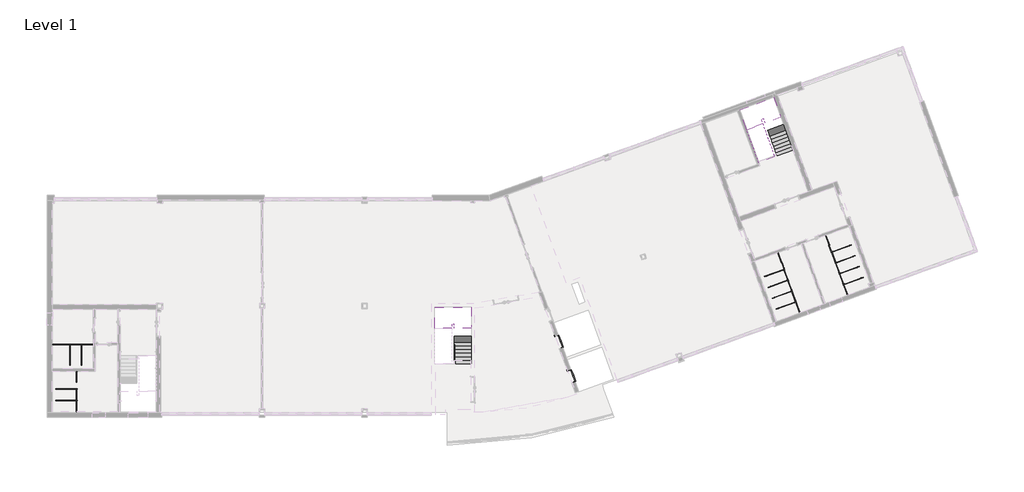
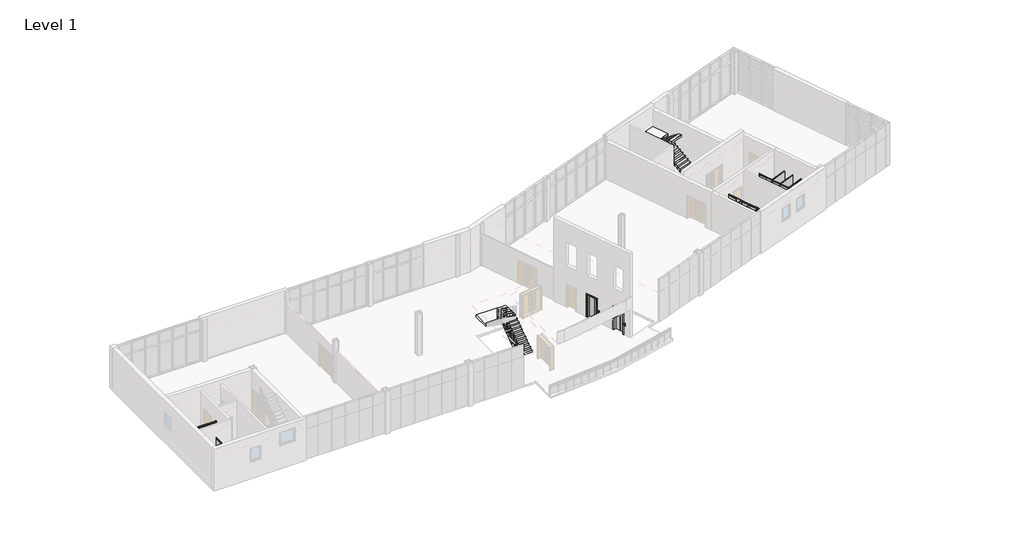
# One storey, part 12 of 12: 19 flow terminals, 3 stair flights, 2 proxies, 2 slabs.
"""IFC4 building model written with IfcOpenShell, lengths in millimetres."""

from ifc_helpers import new_model, si_unit, frame, origin, place, context, project, spatial, polyline, outline, extrude, faceted_brep, transform, mapped, element, save
from components import specialty_equipment_lift_assembly_13_person_wide_car_fb916a52, flow_terminal_2100mm_height_12b2e6eb, flow_terminal_2100mm_height_2c32aa6e, flow_terminal_2100mm_height_1f2eed72, flow_terminal_2100mm_height_0595ce71, flow_terminal_2100mm_height_6680c838, plumbing_fixtures_cubicle_corner_end_2100mm_height_8010d271, plumbing_fixtures_cubicle_corner_end_2100mm_height_71efdfa1

model = new_model("IFC4")

# Units and contexts
model_context = context("Model", 3, world=origin())
ifc_project = project(units=[si_unit("LENGTHUNIT", "METRE", prefix="MILLI")], contexts=[model_context])

# Site, building, storey
site = spatial("IfcSite", under=ifc_project)
building = spatial("IfcBuilding", under=site)
storey = spatial("IfcBuildingStorey", under=building, Name="Level 1", Elevation=3900.0)

# Proxies
placement = place(None, origin())
specialty_equipment_lift_assembly_13_person_wide_car_shape = specialty_equipment_lift_assembly_13_person_wide_car_fb916a52(model_context)
element("IfcBuildingElementProxy", 1, Name="Specialty_Equipment_Lift_Assembly : 13_Person-Wide_Car", ObjectType="Specialty_Equipment_Lift_Assembly : 13_Person-Wide_Car", at=placement, inside=storey, context=model_context, shape_type="MappedRepresentation", body=[
    mapped(specialty_equipment_lift_assembly_13_person_wide_car_shape, transform((36402.6729076, 5528.4769866, 3900.0), x_axis=(-0.34202014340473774, 0.9396926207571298, 0.0), y_axis=(-0.9396926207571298, -0.34202014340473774, 0.0), z_axis=(0.0, 0.0, 1.0))),
])
element("IfcBuildingElementProxy", 2, Name="Specialty_Equipment_Lift_Assembly : 13_Person-Wide_Car", ObjectType="Specialty_Equipment_Lift_Assembly : 13_Person-Wide_Car", at=placement, inside=storey, context=model_context, shape_type="MappedRepresentation", body=[
    mapped(specialty_equipment_lift_assembly_13_person_wide_car_shape, transform((37291.5468029, 3086.3160311, 3900.0), x_axis=(-0.34202014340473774, 0.9396926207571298, 0.0), y_axis=(-0.9396926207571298, -0.34202014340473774, 0.0), z_axis=(0.0, 0.0, 1.0))),
])

# Flow terminals
flow_terminal_2100mm_height_shape = flow_terminal_2100mm_height_12b2e6eb(model_context)
element("IfcFlowTerminal", 3, ObjectType="Plumbing_Fixtures_Toilet_Cubicle_End_Adjacent_Wall : 2100mm_Height", at=placement, inside=storey, context=model_context, shape_type="MappedRepresentation", body=[
    mapped(flow_terminal_2100mm_height_shape, transform((50541.393351, 10685.9180507, 3900.0), x_axis=(-0.3420201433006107, 0.9396926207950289, 0.0), y_axis=(-0.9396926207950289, -0.3420201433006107, 0.0), z_axis=(0.0, 0.0, 1.0))),
])
element("IfcFlowTerminal", 4, ObjectType="Plumbing_Fixtures_Toilet_Cubicle_End_Adjacent_Wall : 2100mm_Height", at=placement, inside=storey, context=model_context, shape_type="MappedRepresentation", body=[
    mapped(flow_terminal_2100mm_height_shape, transform((383.0, 2814.5689301, 3900.0), x_axis=(2.5442148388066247e-11, 1.0, 0.0), y_axis=(-1.0, 2.5442148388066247e-11, 0.0), z_axis=(0.0, 0.0, 1.0))),
])
element("IfcFlowTerminal", 5, ObjectType="Plumbing_Fixtures_Toilet_Cubicle_End_Adjacent_Wall : 2100mm_Height", at=placement, inside=storey, context=model_context, shape_type="MappedRepresentation", body=[
    mapped(flow_terminal_2100mm_height_shape, transform((830.9310712, 3326.5000005, 3900.0), x_axis=(-1.0, 2.5443536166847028e-11, 0.0), y_axis=(-2.5443536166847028e-11, -1.0, 0.0), z_axis=(0.0, 0.0, 1.0))),
])
flow_terminal_2100mm_height_2_shape = flow_terminal_2100mm_height_2c32aa6e(model_context)
element("IfcFlowTerminal", 6, ObjectType="Plumbing_Fixtures_Toilet_Cubicle_End_Adjacent_Wall : 2100mm_Height", at=placement, inside=storey, context=model_context, shape_type="MappedRepresentation", body=[
    mapped(flow_terminal_2100mm_height_2_shape, transform((57283.6879051, 13139.9125789, 3900.0), x_axis=(-0.3420201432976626, 0.9396926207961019, 0.0), y_axis=(-0.9396926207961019, -0.3420201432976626, 0.0), z_axis=(0.0, 0.0, 1.0))),
])
flow_terminal_2100mm_height_3_shape = flow_terminal_2100mm_height_1f2eed72(model_context)
element("IfcFlowTerminal", 7, ObjectType="Plumbing_Fixtures_Toile_Cubicle_Extension_Panel : 2100mm_Height", at=placement, inside=storey, context=model_context, shape_type="MappedRepresentation", body=[
    mapped(flow_terminal_2100mm_height_3_shape, transform((50976.9218015, 9489.3134675, 3900.0), x_axis=(-0.34202014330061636, 0.9396926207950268, 0.0), y_axis=(-0.9396926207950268, -0.34202014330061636, 0.0), z_axis=(0.0, 0.0, 1.0))),
])
flow_terminal_2100mm_height_4_shape = flow_terminal_2100mm_height_0595ce71(model_context)
element("IfcFlowTerminal", 8, ObjectType="Plumbing_Fixtures_Toile_Cubicle_Extension_Panel : 2100mm_Height", at=placement, inside=storey, context=model_context, shape_type="MappedRepresentation", body=[
    mapped(flow_terminal_2100mm_height_4_shape, transform((57719.2163556, 11943.3079956, 3900.0), x_axis=(-0.3420201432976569, 0.9396926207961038, 0.0), y_axis=(-0.9396926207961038, -0.3420201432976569, 0.0), z_axis=(0.0, 0.0, 1.0))),
])
flow_terminal_2100mm_height_5_shape = flow_terminal_2100mm_height_6680c838(model_context)
element("IfcFlowTerminal", 9, ObjectType="Plumbing_Fixtures_Toile_Cubicle_Extension_Panel : 2100mm_Height", at=placement, inside=storey, context=model_context, shape_type="MappedRepresentation", body=[
    mapped(flow_terminal_2100mm_height_5_shape, transform((2080.4310713, 3326.5000005, 3900.0), x_axis=(-1.0, 0.0, 0.0), y_axis=(0.0, -1.0, 0.0), z_axis=(0.0, 0.0, 1.0))),
])
plumbing_fixtures_cubicle_corner_end_2100mm_height_shape = plumbing_fixtures_cubicle_corner_end_2100mm_height_8010d271(model_context)
element("IfcFlowTerminal", 10, ObjectType="Plumbing_Fixtures_Cubicle_Corner_End : 2100mm_Height", at=placement, inside=storey, context=model_context, shape_type="MappedRepresentation", body=[
    mapped(plumbing_fixtures_cubicle_corner_end_2100mm_height_shape, transform((58572.2617435, 9599.5850544, 3900.0), x_axis=(0.3420201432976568, -0.9396926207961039, 0.0), y_axis=(0.9396926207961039, 0.3420201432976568, 0.0), z_axis=(0.0, 0.0, 1.0))),
])
element("IfcFlowTerminal", 11, ObjectType="Plumbing_Fixtures_Cubicle_Corner_End : 2100mm_Height", at=placement, inside=storey, context=model_context, shape_type="MappedRepresentation", body=[
    mapped(plumbing_fixtures_cubicle_corner_end_2100mm_height_shape, transform((58291.805226, 10370.1330034, 3900.0), x_axis=(0.3420201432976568, -0.9396926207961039, 0.0), y_axis=(0.9396926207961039, 0.3420201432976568, 0.0), z_axis=(0.0, 0.0, 1.0))),
])
element("IfcFlowTerminal", 12, ObjectType="Plumbing_Fixtures_Cubicle_Corner_End : 2100mm_Height", at=placement, inside=storey, context=model_context, shape_type="MappedRepresentation", body=[
    mapped(plumbing_fixtures_cubicle_corner_end_2100mm_height_shape, transform((58011.3487085, 11140.6809525, 3900.0), x_axis=(0.3420201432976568, -0.9396926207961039, 0.0), y_axis=(0.9396926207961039, 0.3420201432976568, 0.0), z_axis=(0.0, 0.0, 1.0))),
])
element("IfcFlowTerminal", 13, ObjectType="Plumbing_Fixtures_Cubicle_Corner_End : 2100mm_Height", at=placement, inside=storey, context=model_context, shape_type="MappedRepresentation", body=[
    mapped(plumbing_fixtures_cubicle_corner_end_2100mm_height_shape, transform((57730.892191, 11911.2289015, 3900.0), x_axis=(0.3420201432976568, -0.9396926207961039, 0.0), y_axis=(0.9396926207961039, 0.3420201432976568, 0.0), z_axis=(0.0, 0.0, 1.0))),
])
plumbing_fixtures_cubicle_corner_end_2100mm_height_2_shape = plumbing_fixtures_cubicle_corner_end_2100mm_height_71efdfa1(model_context)
element("IfcFlowTerminal", 14, ObjectType="Plumbing_Fixtures_Cubicle_Corner_End : 2100mm_Height", at=placement, inside=storey, context=model_context, shape_type="MappedRepresentation", body=[
    mapped(plumbing_fixtures_cubicle_corner_end_2100mm_height_2_shape, transform((51829.9671894, 7145.5905262, 3900.0), x_axis=(0.3420201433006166, -0.9396926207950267, 0.0), y_axis=(0.9396926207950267, 0.3420201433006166, 0.0), z_axis=(0.0, 0.0, 1.0))),
])
element("IfcFlowTerminal", 15, ObjectType="Plumbing_Fixtures_Cubicle_Corner_End : 2100mm_Height", at=placement, inside=storey, context=model_context, shape_type="MappedRepresentation", body=[
    mapped(plumbing_fixtures_cubicle_corner_end_2100mm_height_2_shape, transform((51549.5106719, 7916.1384753, 3900.0), x_axis=(0.3420201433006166, -0.9396926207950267, 0.0), y_axis=(0.9396926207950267, 0.3420201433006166, 0.0), z_axis=(0.0, 0.0, 1.0))),
])
element("IfcFlowTerminal", 16, ObjectType="Plumbing_Fixtures_Cubicle_Corner_End : 2100mm_Height", at=placement, inside=storey, context=model_context, shape_type="MappedRepresentation", body=[
    mapped(plumbing_fixtures_cubicle_corner_end_2100mm_height_2_shape, transform((51269.0541544, 8686.6864243, 3900.0), x_axis=(0.3420201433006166, -0.9396926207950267, 0.0), y_axis=(0.9396926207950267, 0.3420201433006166, 0.0), z_axis=(0.0, 0.0, 1.0))),
])
element("IfcFlowTerminal", 17, ObjectType="Plumbing_Fixtures_Cubicle_Corner_End : 2100mm_Height", at=placement, inside=storey, context=model_context, shape_type="MappedRepresentation", body=[
    mapped(plumbing_fixtures_cubicle_corner_end_2100mm_height_2_shape, transform((50988.5976369, 9457.2343734, 3900.0), x_axis=(0.3420201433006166, -0.9396926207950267, 0.0), y_axis=(0.9396926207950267, 0.3420201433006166, 0.0), z_axis=(0.0, 0.0, 1.0))),
])
element("IfcFlowTerminal", 18, ObjectType="Plumbing_Fixtures_Cubicle_Corner_End : 2100mm_Height", at=placement, inside=storey, context=model_context, shape_type="MappedRepresentation", body=[
    mapped(plumbing_fixtures_cubicle_corner_end_2100mm_height_2_shape, transform((383.0, 710.9310711, 3900.0), x_axis=(-2.5442148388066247e-11, -1.0, 0.0), y_axis=(1.0, -2.5442148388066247e-11, 0.0), z_axis=(0.0, 0.0, 1.0))),
])
element("IfcFlowTerminal", 19, ObjectType="Plumbing_Fixtures_Cubicle_Corner_End : 2100mm_Height", at=placement, inside=storey, context=model_context, shape_type="MappedRepresentation", body=[
    mapped(plumbing_fixtures_cubicle_corner_end_2100mm_height_2_shape, transform((383.0, 1530.9310711, 3900.0), x_axis=(-2.5442148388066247e-11, -1.0, 0.0), y_axis=(1.0, -2.5442148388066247e-11, 0.0), z_axis=(0.0, 0.0, 1.0))),
])
element("IfcFlowTerminal", 20, ObjectType="Plumbing_Fixtures_Cubicle_Corner_End : 2100mm_Height", at=placement, inside=storey, context=model_context, shape_type="MappedRepresentation", body=[
    mapped(plumbing_fixtures_cubicle_corner_end_2100mm_height_2_shape, transform((2934.5689301, 3326.5000005, 3900.0), x_axis=(1.0, -2.5443536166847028e-11, 0.0), y_axis=(2.5443536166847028e-11, 1.0, 0.0), z_axis=(0.0, 0.0, 1.0))),
])
element("IfcFlowTerminal", 21, ObjectType="Plumbing_Fixtures_Cubicle_Corner_End : 2100mm_Height", at=placement, inside=storey, context=model_context, shape_type="MappedRepresentation", body=[
    mapped(plumbing_fixtures_cubicle_corner_end_2100mm_height_2_shape, transform((2114.5689301, 3326.5000005, 3900.0), x_axis=(1.0, -2.5443536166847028e-11, 0.0), y_axis=(2.5443536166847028e-11, 1.0, 0.0), z_axis=(0.0, 0.0, 1.0))),
])

# Slabs
element("IfcSlab", 22, ObjectType="8\" Thickness", at=placement, inside=storey, context=model_context, shape_type="SolidModel", body=[
    faceted_brep([(29052.2000029, 6263.2000006, 5849.0), (30252.200003, 6263.2000006, 5849.0), (30252.200003, 6490.4719159, 5849.0), (30252.200003, 7763.2000004, 5849.0), (27662.2000031, 7763.2000004, 5849.0), (27662.2000031, 6285.9280852, 5849.0), (27662.2000031, 6263.2000006, 5849.0), (28862.2000029, 6263.2000006, 5849.0), (28862.2000029, 6285.9280852, 5849.0), (28862.2000029, 6563.2000006, 5849.0), (29052.2000029, 6563.2000006, 5849.0), (29052.2000029, 6490.4719159, 5849.0), (29052.2000029, 6263.2000006, 5487.8435509), (29052.2000029, 6263.2000006, 5671.7272727), (29052.2000029, 6563.2000006, 5649.0), (29052.2000029, 6490.4719159, 5649.0), (30252.200003, 6263.2000006, 5671.7272727), (30252.200003, 6263.2000006, 5487.8435509), (30252.200003, 6490.4719159, 5649.0), (30252.200003, 7763.2000004, 5649.0), (28862.2000029, 6263.2000006, 5665.1162782), (28862.2000029, 6285.9280852, 5649.0), (28862.2000029, 6563.2000006, 5649.0), (27662.2000031, 6285.9280852, 5649.0), (27662.2000031, 7763.2000004, 5649.0), (27662.2000031, 6263.2000006, 5665.1162782)], [[[0, 1, 2, 3, 4, 5, 6, 7, 8, 9, 10, 11]], [[12, 13, 0, 11, 10, 14, 15]], [[1, 16, 17, 18, 19, 3, 2]], [[7, 20, 21, 22, 9, 8]], [[18, 15, 14, 22, 21, 23, 24, 19]], [[15, 18, 17, 12]], [[23, 21, 20, 25]], [[1, 0, 13, 12, 17, 16]], [[4, 3, 19, 24]], [[4, 24, 23, 25, 6, 5]], [[7, 6, 25, 20]], [[10, 9, 22, 14]]]),
    extrude(outline(polyline([(29052.2000029, 6263.2000006), (29052.2000029, 6563.2000006), (28862.2000029, 6563.2000006), (28862.2000029, 6263.2000006), (27662.2000031, 6263.2000006), (27662.2000031, 7763.2000004), (30252.200003, 7763.2000004), (30252.200003, 6263.2000006), (29052.2000029, 6263.2000006)])), frame((0.0, 0.0, 5849.0), z_axis=(0.0, 0.0, 1.0), x_axis=(1.0, 0.0, 0.0)), (0.0, 0.0, 1.0), 1.0),
])
element("IfcSlab", 23, ObjectType="8\" Thickness", at=placement, inside=storey, context=model_context, shape_type="SolidModel", body=[
    faceted_brep([(51174.021156, 20890.1085605, 5849.0), (52301.652301, 21300.5327324, 5849.0), (52223.920728, 21514.0984742, 5849.0), (51788.6220861, 22710.0716635, 5849.0), (49354.8181983, 21824.2394924, 5849.0), (49860.0749505, 20436.0579748, 5849.0), (49867.8484132, 20414.7005613, 5849.0), (50995.479558, 20825.1247332, 5849.0), (50987.7060952, 20846.4821467, 5849.0), (50892.873515, 21107.0325195, 5849.0), (51071.415113, 21172.0163467, 5849.0), (51096.2895829, 21103.6743022, 5849.0), (51174.021156, 20890.1085605, 5487.8435509), (51174.021156, 20890.1085605, 5671.7272727), (51071.415113, 21172.0163467, 5649.0), (51096.2895829, 21103.6743022, 5649.0), (52301.652301, 21300.5327324, 5671.7272727), (52301.652301, 21300.5327324, 5487.8435509), (52223.920728, 21514.0984742, 5649.0), (51788.6220861, 22710.0716635, 5649.0), (50995.479558, 20825.1247332, 5665.1162782), (50987.7060952, 20846.4821467, 5649.0), (50892.873515, 21107.0325195, 5649.0), (49860.0749505, 20436.0579748, 5649.0), (49354.8181983, 21824.2394924, 5649.0), (49867.8484132, 20414.7005613, 5665.1162782)], [[[0, 1, 2, 3, 4, 5, 6, 7, 8, 9, 10, 11]], [[12, 13, 0, 11, 10, 14, 15]], [[1, 16, 17, 18, 19, 3, 2]], [[7, 20, 21, 22, 9, 8]], [[18, 15, 14, 22, 21, 23, 24, 19]], [[15, 18, 17, 12]], [[23, 21, 20, 25]], [[1, 0, 13, 12, 17, 16]], [[4, 3, 19, 24]], [[4, 24, 23, 25, 6, 5]], [[7, 6, 25, 20]], [[10, 9, 22, 14]]]),
    extrude(outline(polyline([(51174.021156, 20890.1085605), (51071.415113, 21172.0163467), (50892.873515, 21107.0325195), (50995.479558, 20825.1247332), (49867.8484132, 20414.7005613), (49354.8181983, 21824.2394924), (51788.6220861, 22710.0716635), (52301.652301, 21300.5327324), (51174.021156, 20890.1085605)])), frame((0.0, 0.0, 5849.0), z_axis=(0.0, 0.0, 1.0), x_axis=(1.0, 0.0, 0.0)), (0.0, 0.0, 1.0), 1.0),
])

# Stair flights
element("IfcStairFlight", 24, ObjectType="1/16\"_Tread-6\"_Depth", at=placement, inside=storey, context=model_context, shape_type="SolidModel", body=[
    faceted_brep([(29052.2000029, 4013.2000006, 4076.2727273), (29052.2000029, 3763.2000006, 4076.2727273), (30252.200003, 3763.2000006, 4076.2727273), (30252.200003, 4013.2000006, 4076.2727273), (29052.2000029, 4013.2000006, 3900.0), (29052.2000029, 3763.2000006, 3900.0), (30252.200003, 3763.2000006, 3900.0), (30252.200003, 4013.2000006, 3900.0), (29052.2000029, 4263.2000006, 4253.5454545), (29052.2000029, 4013.2000006, 4253.5454545), (30252.200003, 4013.2000006, 4253.5454545), (30252.200003, 4263.2000006, 4253.5454545), (29052.2000029, 4263.2000006, 4069.6617328), (29052.2000029, 4023.9334544, 3900.0), (30252.200003, 4023.9334544, 3900.0), (30252.200003, 4263.2000006, 4069.6617328), (29052.2000029, 4513.2000006, 4430.8181818), (29052.2000029, 4263.2000006, 4430.8181818), (30252.200003, 4263.2000006, 4430.8181818), (30252.200003, 4513.2000006, 4430.8181818), (29052.2000029, 4513.2000006, 4246.93446), (30252.200003, 4513.2000006, 4246.93446), (29052.2000029, 4763.2000006, 4608.0909091), (29052.2000029, 4513.2000006, 4608.0909091), (30252.200003, 4513.2000006, 4608.0909091), (30252.200003, 4763.2000006, 4608.0909091), (29052.2000029, 4763.2000006, 4424.2071873), (30252.200003, 4763.2000006, 4424.2071873), (29052.2000029, 5013.2000006, 4785.3636364), (29052.2000029, 4763.2000006, 4785.3636364), (30252.200003, 4763.2000006, 4785.3636364), (30252.200003, 5013.2000006, 4785.3636364), (29052.2000029, 5013.2000006, 4601.4799146), (30252.200003, 5013.2000006, 4601.4799146), (29052.2000029, 5263.2000006, 4962.6363636), (29052.2000029, 5013.2000006, 4962.6363636), (30252.200003, 5013.2000006, 4962.6363636), (30252.200003, 5263.2000006, 4962.6363636), (29052.2000029, 5263.2000006, 4778.7526418), (30252.200003, 5263.2000006, 4778.7526418), (29052.2000029, 5513.2000006, 5139.9090909), (29052.2000029, 5263.2000006, 5139.9090909), (30252.200003, 5263.2000006, 5139.9090909), (30252.200003, 5513.2000006, 5139.9090909), (29052.2000029, 5513.2000006, 4956.0253691), (30252.200003, 5513.2000006, 4956.0253691), (29052.2000029, 5763.2000006, 5317.1818182), (29052.2000029, 5513.2000006, 5317.1818182), (30252.200003, 5513.2000006, 5317.1818182), (30252.200003, 5763.2000006, 5317.1818182), (29052.2000029, 5763.2000006, 5133.2980964), (30252.200003, 5763.2000006, 5133.2980964), (29052.2000029, 6013.2000006, 5494.4545455), (29052.2000029, 5763.2000006, 5494.4545455), (30252.200003, 5763.2000006, 5494.4545455), (30252.200003, 6013.2000006, 5494.4545455), (29052.2000029, 6013.2000006, 5310.5708237), (30252.200003, 6013.2000006, 5310.5708237), (29052.2000029, 6263.2000006, 5487.8435509), (30252.200003, 6263.2000006, 5487.8435509), (29052.2000029, 6263.2000006, 5671.7272727), (29052.2000029, 6013.2000006, 5671.7272727), (30252.200003, 6013.2000006, 5671.7272727), (30252.200003, 6263.2000006, 5671.7272727)], [[[0, 1, 2, 3]], [[1, 0, 4, 5]], [[2, 1, 5, 6]], [[3, 2, 6, 7]], [[8, 9, 10, 11]], [[4, 0, 9, 8, 12, 13]], [[0, 3, 10, 9]], [[3, 7, 14, 15, 11, 10]], [[16, 17, 18, 19]], [[17, 16, 20, 12, 8]], [[8, 11, 18, 17]], [[19, 18, 11, 15, 21]], [[22, 23, 24, 25]], [[23, 22, 26, 20, 16]], [[16, 19, 24, 23]], [[25, 24, 19, 21, 27]], [[28, 29, 30, 31]], [[29, 28, 32, 26, 22]], [[22, 25, 30, 29]], [[31, 30, 25, 27, 33]], [[34, 35, 36, 37]], [[35, 34, 38, 32, 28]], [[28, 31, 36, 35]], [[37, 36, 31, 33, 39]], [[40, 41, 42, 43]], [[41, 40, 44, 38, 34]], [[34, 37, 42, 41]], [[43, 42, 37, 39, 45]], [[46, 47, 48, 49]], [[47, 46, 50, 44, 40]], [[40, 43, 48, 47]], [[49, 48, 43, 45, 51]], [[52, 53, 54, 55]], [[53, 52, 56, 50, 46]], [[46, 49, 54, 53]], [[55, 54, 49, 51, 57]], [[5, 4, 13, 14, 7, 6]], [[14, 13, 12, 20, 26, 32, 38, 44, 50, 56, 58, 59, 57, 51, 45, 39, 33, 27, 21, 15]], [[60, 61, 62, 63]], [[61, 60, 58, 56, 52]], [[52, 55, 62, 61]], [[63, 62, 55, 57, 59]], [[60, 63, 59, 58]]]),
    extrude(outline(polyline([(29052.2000029, 4013.2000006), (30252.200003, 4013.2000006), (30252.200003, 3763.2000006), (29052.2000029, 3763.2000006), (29052.2000029, 4013.2000006)])), frame((0.0, 0.0, 4076.2727273), z_axis=(0.0, 0.0, 1.0), x_axis=(1.0, 0.0, 0.0)), (0.0, 0.0, 1.0), 1.0),
    extrude(outline(polyline([(29052.2000029, 4263.2000006), (30252.200003, 4263.2000006), (30252.200003, 4013.2000006), (29052.2000029, 4013.2000006), (29052.2000029, 4263.2000006)])), frame((0.0, 0.0, 4253.5454545), z_axis=(0.0, 0.0, 1.0), x_axis=(1.0, 0.0, 0.0)), (0.0, 0.0, 1.0), 1.0),
    extrude(outline(polyline([(29052.2000029, 4513.2000006), (30252.200003, 4513.2000006), (30252.200003, 4263.2000006), (29052.2000029, 4263.2000006), (29052.2000029, 4513.2000006)])), frame((0.0, 0.0, 4430.8181818), z_axis=(0.0, 0.0, 1.0), x_axis=(1.0, 0.0, 0.0)), (0.0, 0.0, 1.0), 1.0),
    extrude(outline(polyline([(29052.2000029, 4763.2000006), (30252.200003, 4763.2000006), (30252.200003, 4513.2000006), (29052.2000029, 4513.2000006), (29052.2000029, 4763.2000006)])), frame((0.0, 0.0, 4608.0909091), z_axis=(0.0, 0.0, 1.0), x_axis=(1.0, 0.0, 0.0)), (0.0, 0.0, 1.0), 1.0),
    extrude(outline(polyline([(29052.2000029, 5013.2000006), (30252.200003, 5013.2000006), (30252.200003, 4763.2000006), (29052.2000029, 4763.2000006), (29052.2000029, 5013.2000006)])), frame((0.0, 0.0, 4785.3636364), z_axis=(0.0, 0.0, 1.0), x_axis=(1.0, 0.0, 0.0)), (0.0, 0.0, 1.0), 1.0),
    extrude(outline(polyline([(29052.2000029, 5263.2000006), (30252.200003, 5263.2000006), (30252.200003, 5013.2000006), (29052.2000029, 5013.2000006), (29052.2000029, 5263.2000006)])), frame((0.0, 0.0, 4962.6363636), z_axis=(0.0, 0.0, 1.0), x_axis=(1.0, 0.0, 0.0)), (0.0, 0.0, 1.0), 1.0),
    extrude(outline(polyline([(29052.2000029, 5513.2000006), (30252.200003, 5513.2000006), (30252.200003, 5263.2000006), (29052.2000029, 5263.2000006), (29052.2000029, 5513.2000006)])), frame((0.0, 0.0, 5139.9090909), z_axis=(0.0, 0.0, 1.0), x_axis=(1.0, 0.0, 0.0)), (0.0, 0.0, 1.0), 1.0),
    extrude(outline(polyline([(29052.2000029, 5763.2000006), (30252.200003, 5763.2000006), (30252.200003, 5513.2000006), (29052.2000029, 5513.2000006), (29052.2000029, 5763.2000006)])), frame((0.0, 0.0, 5317.1818182), z_axis=(0.0, 0.0, 1.0), x_axis=(1.0, 0.0, 0.0)), (0.0, 0.0, 1.0), 1.0),
    extrude(outline(polyline([(29052.2000029, 6013.2000006), (30252.200003, 6013.2000006), (30252.200003, 5763.2000006), (29052.2000029, 5763.2000006), (29052.2000029, 6013.2000006)])), frame((0.0, 0.0, 5494.4545455), z_axis=(0.0, 0.0, 1.0), x_axis=(1.0, 0.0, 0.0)), (0.0, 0.0, 1.0), 1.0),
    extrude(outline(polyline([(29052.2000029, 6263.2000006), (30252.200003, 6263.2000006), (30252.200003, 6013.2000006), (29052.2000029, 6013.2000006), (29052.2000029, 6263.2000006)])), frame((0.0, 0.0, 5671.7272727), z_axis=(0.0, 0.0, 1.0), x_axis=(1.0, 0.0, 0.0)), (0.0, 0.0, 1.0), 1.0),
])
element("IfcStairFlight", 25, ObjectType="1/16\"_Tread-6\"_Depth", at=placement, inside=storey, context=model_context, shape_type="SolidModel", body=[
    faceted_brep([(51943.5664784, 18775.8001637, 4076.2727273), (52029.0715142, 18540.8770085, 4076.2727273), (53156.7026593, 18951.3011804, 4076.2727273), (53071.1976234, 19186.2243356, 4076.2727273), (51943.5664784, 18775.8001637, 3900.0), (52029.0715142, 18540.8770085, 3900.0), (53156.7026593, 18951.3011804, 3900.0), (53071.1976234, 19186.2243356, 3900.0), (51858.0614426, 19010.7233189, 4253.5454545), (51943.5664784, 18775.8001637, 4253.5454545), (53071.1976234, 19186.2243356, 4253.5454545), (52985.6925876, 19421.1474908, 4253.5454545), (51858.0614426, 19010.7233189, 4069.6617328), (51939.895421, 18785.886311, 3900.0), (53067.526566, 19196.310483, 3900.0), (52985.6925876, 19421.1474908, 4069.6617328), (51772.5564067, 19245.6464741, 4430.8181818), (51858.0614426, 19010.7233189, 4430.8181818), (52985.6925876, 19421.1474908, 4430.8181818), (52900.1875518, 19656.070646, 4430.8181818), (51772.5564067, 19245.6464741, 4246.93446), (52900.1875518, 19656.070646, 4246.93446), (51687.0513709, 19480.5696293, 4608.0909091), (51772.5564067, 19245.6464741, 4608.0909091), (52900.1875518, 19656.070646, 4608.0909091), (52814.682516, 19890.9938012, 4608.0909091), (51687.0513709, 19480.5696293, 4424.2071873), (52814.682516, 19890.9938012, 4424.2071873), (51601.5463351, 19715.4927845, 4785.3636364), (51687.0513709, 19480.5696293, 4785.3636364), (52814.682516, 19890.9938012, 4785.3636364), (52729.1774801, 20125.9169564, 4785.3636364), (51601.5463351, 19715.4927845, 4601.4799146), (52729.1774801, 20125.9169564, 4601.4799146), (51516.0412993, 19950.4159397, 4962.6363636), (51601.5463351, 19715.4927845, 4962.6363636), (52729.1774801, 20125.9169564, 4962.6363636), (52643.6724443, 20360.8401116, 4962.6363636), (51516.0412993, 19950.4159397, 4778.7526418), (52643.6724443, 20360.8401116, 4778.7526418), (51430.5362634, 20185.3390949, 5139.9090909), (51516.0412993, 19950.4159397, 5139.9090909), (52643.6724443, 20360.8401116, 5139.9090909), (52558.1674085, 20595.7632668, 5139.9090909), (51430.5362634, 20185.3390949, 4956.0253691), (52558.1674085, 20595.7632668, 4956.0253691), (51345.0312276, 20420.2622501, 5317.1818182), (51430.5362634, 20185.3390949, 5317.1818182), (52558.1674085, 20595.7632668, 5317.1818182), (52472.6623727, 20830.686422, 5317.1818182), (51345.0312276, 20420.2622501, 5133.2980964), (52472.6623727, 20830.686422, 5133.2980964), (51259.5261918, 20655.1854053, 5494.4545455), (51345.0312276, 20420.2622501, 5494.4545455), (52472.6623727, 20830.686422, 5494.4545455), (52387.1573368, 21065.6095772, 5494.4545455), (51259.5261918, 20655.1854053, 5310.5708237), (52387.1573368, 21065.6095772, 5310.5708237), (51174.021156, 20890.1085605, 5487.8435509), (52301.652301, 21300.5327324, 5487.8435509), (51174.021156, 20890.1085605, 5671.7272727), (51259.5261918, 20655.1854053, 5671.7272727), (52387.1573368, 21065.6095772, 5671.7272727), (52301.652301, 21300.5327324, 5671.7272727)], [[[0, 1, 2, 3]], [[1, 0, 4, 5]], [[2, 1, 5, 6]], [[3, 2, 6, 7]], [[8, 9, 10, 11]], [[4, 0, 9, 8, 12, 13]], [[0, 3, 10, 9]], [[3, 7, 14, 15, 11, 10]], [[16, 17, 18, 19]], [[17, 16, 20, 12, 8]], [[8, 11, 18, 17]], [[19, 18, 11, 15, 21]], [[22, 23, 24, 25]], [[23, 22, 26, 20, 16]], [[16, 19, 24, 23]], [[25, 24, 19, 21, 27]], [[28, 29, 30, 31]], [[29, 28, 32, 26, 22]], [[22, 25, 30, 29]], [[31, 30, 25, 27, 33]], [[34, 35, 36, 37]], [[35, 34, 38, 32, 28]], [[28, 31, 36, 35]], [[37, 36, 31, 33, 39]], [[40, 41, 42, 43]], [[41, 40, 44, 38, 34]], [[34, 37, 42, 41]], [[43, 42, 37, 39, 45]], [[46, 47, 48, 49]], [[47, 46, 50, 44, 40]], [[40, 43, 48, 47]], [[49, 48, 43, 45, 51]], [[52, 53, 54, 55]], [[53, 52, 56, 50, 46]], [[46, 49, 54, 53]], [[55, 54, 49, 51, 57]], [[5, 4, 13, 14, 7, 6]], [[14, 13, 12, 20, 26, 32, 38, 44, 50, 56, 58, 59, 57, 51, 45, 39, 33, 27, 21, 15]], [[60, 61, 62, 63]], [[61, 60, 58, 56, 52]], [[52, 55, 62, 61]], [[63, 62, 55, 57, 59]], [[60, 63, 59, 58]]]),
    extrude(outline(polyline([(51943.5664784, 18775.8001637), (53071.1976234, 19186.2243356), (53156.7026593, 18951.3011804), (52029.0715142, 18540.8770085), (51943.5664784, 18775.8001637)])), frame((0.0, 0.0, 4076.2727273), z_axis=(0.0, 0.0, 1.0), x_axis=(1.0, 0.0, 0.0)), (0.0, 0.0, 1.0), 1.0),
    extrude(outline(polyline([(51858.0614426, 19010.7233189), (52985.6925876, 19421.1474908), (53071.1976234, 19186.2243356), (51943.5664784, 18775.8001637), (51858.0614426, 19010.7233189)])), frame((0.0, 0.0, 4253.5454545), z_axis=(0.0, 0.0, 1.0), x_axis=(1.0, 0.0, 0.0)), (0.0, 0.0, 1.0), 1.0),
    extrude(outline(polyline([(51772.5564067, 19245.6464741), (52900.1875518, 19656.070646), (52985.6925876, 19421.1474908), (51858.0614426, 19010.7233189), (51772.5564067, 19245.6464741)])), frame((0.0, 0.0, 4430.8181818), z_axis=(0.0, 0.0, 1.0), x_axis=(1.0, 0.0, 0.0)), (0.0, 0.0, 1.0), 1.0),
    extrude(outline(polyline([(51687.0513709, 19480.5696293), (52814.682516, 19890.9938012), (52900.1875518, 19656.070646), (51772.5564067, 19245.6464741), (51687.0513709, 19480.5696293)])), frame((0.0, 0.0, 4608.0909091), z_axis=(0.0, 0.0, 1.0), x_axis=(1.0, 0.0, 0.0)), (0.0, 0.0, 1.0), 1.0),
    extrude(outline(polyline([(51601.5463351, 19715.4927845), (52729.1774801, 20125.9169564), (52814.682516, 19890.9938012), (51687.0513709, 19480.5696293), (51601.5463351, 19715.4927845)])), frame((0.0, 0.0, 4785.3636364), z_axis=(0.0, 0.0, 1.0), x_axis=(1.0, 0.0, 0.0)), (0.0, 0.0, 1.0), 1.0),
    extrude(outline(polyline([(51516.0412993, 19950.4159397), (52643.6724443, 20360.8401116), (52729.1774801, 20125.9169564), (51601.5463351, 19715.4927845), (51516.0412993, 19950.4159397)])), frame((0.0, 0.0, 4962.6363636), z_axis=(0.0, 0.0, 1.0), x_axis=(1.0, 0.0, 0.0)), (0.0, 0.0, 1.0), 1.0),
    extrude(outline(polyline([(51430.5362634, 20185.3390949), (52558.1674085, 20595.7632668), (52643.6724443, 20360.8401116), (51516.0412993, 19950.4159397), (51430.5362634, 20185.3390949)])), frame((0.0, 0.0, 5139.9090909), z_axis=(0.0, 0.0, 1.0), x_axis=(1.0, 0.0, 0.0)), (0.0, 0.0, 1.0), 1.0),
    extrude(outline(polyline([(51345.0312276, 20420.2622501), (52472.6623727, 20830.686422), (52558.1674085, 20595.7632668), (51430.5362634, 20185.3390949), (51345.0312276, 20420.2622501)])), frame((0.0, 0.0, 5317.1818182), z_axis=(0.0, 0.0, 1.0), x_axis=(1.0, 0.0, 0.0)), (0.0, 0.0, 1.0), 1.0),
    extrude(outline(polyline([(51259.5261918, 20655.1854053), (52387.1573368, 21065.6095772), (52472.6623727, 20830.686422), (51345.0312276, 20420.2622501), (51259.5261918, 20655.1854053)])), frame((0.0, 0.0, 5494.4545455), z_axis=(0.0, 0.0, 1.0), x_axis=(1.0, 0.0, 0.0)), (0.0, 0.0, 1.0), 1.0),
    extrude(outline(polyline([(51174.021156, 20890.1085605), (52301.652301, 21300.5327324), (52387.1573368, 21065.6095772), (51259.5261918, 20655.1854053), (51174.021156, 20890.1085605)])), frame((0.0, 0.0, 5671.7272727), z_axis=(0.0, 0.0, 1.0), x_axis=(1.0, 0.0, 0.0)), (0.0, 0.0, 1.0), 1.0),
])
element("IfcStairFlight", 26, ObjectType="1/16\"_Tread-6\"_Depth", at=placement, inside=storey, context=model_context, shape_type="SolidModel", body=[
    faceted_brep([(51080.9845938, 20590.201578, 6026.2727273), (50995.479558, 20825.1247332, 6026.2727273), (49867.8484132, 20414.7005613, 6026.2727273), (49953.3534491, 20179.7774061, 6026.2727273), (51080.9845938, 20590.201578, 5842.3890055), (50995.479558, 20825.1247332, 5665.1162782), (50995.479558, 20825.1247332, 5849.0), (49867.8484132, 20414.7005613, 5665.1162782), (49867.8484132, 20414.7005613, 5849.0), (49953.3534491, 20179.7774061, 5842.3890055), (51166.4896296, 20355.2784228, 6203.5454545), (51080.9845938, 20590.201578, 6203.5454545), (49953.3534491, 20179.7774061, 6203.5454545), (50038.8584849, 19944.8542509, 6203.5454545), (51166.4896296, 20355.2784228, 6019.6617328), (50038.8584849, 19944.8542509, 6019.6617328), (51251.9946655, 20120.3552676, 6380.8181818), (51166.4896296, 20355.2784228, 6380.8181818), (50038.8584849, 19944.8542509, 6380.8181818), (50124.3635207, 19709.9310957, 6380.8181818), (51251.9946655, 20120.3552676, 6196.93446), (50124.3635207, 19709.9310957, 6196.93446), (51337.4997013, 19885.4321124, 6558.0909091), (51251.9946655, 20120.3552676, 6558.0909091), (50124.3635207, 19709.9310957, 6558.0909091), (50209.8685565, 19475.0079405, 6558.0909091), (51337.4997013, 19885.4321124, 6374.2071873), (50209.8685565, 19475.0079405, 6374.2071873), (51423.0047371, 19650.5089572, 6735.3636364), (51337.4997013, 19885.4321124, 6735.3636364), (50209.8685565, 19475.0079405, 6735.3636364), (50295.3735924, 19240.0847853, 6735.3636364), (51423.0047371, 19650.5089572, 6551.4799146), (50295.3735924, 19240.0847853, 6551.4799146), (51508.5097729, 19415.585802, 6912.6363636), (51423.0047371, 19650.5089572, 6912.6363636), (50295.3735924, 19240.0847853, 6912.6363636), (50380.8786282, 19005.1616301, 6912.6363636), (51508.5097729, 19415.585802, 6728.7526418), (50380.8786282, 19005.1616301, 6728.7526418), (51594.0148088, 19180.6626468, 7089.9090909), (51508.5097729, 19415.585802, 7089.9090909), (50380.8786282, 19005.1616301, 7089.9090909), (50466.383664, 18770.2384749, 7089.9090909), (51594.0148088, 19180.6626468, 6906.0253691), (50466.383664, 18770.2384749, 6906.0253691), (51679.5198446, 18945.7394916, 7267.1818182), (51594.0148088, 19180.6626468, 7267.1818182), (50466.383664, 18770.2384749, 7267.1818182), (50551.8886998, 18535.3153197, 7267.1818182), (51679.5198446, 18945.7394916, 7083.2980964), (50551.8886998, 18535.3153197, 7083.2980964), (51765.0248804, 18710.8163364, 7444.4545455), (51679.5198446, 18945.7394916, 7444.4545455), (50551.8886998, 18535.3153197, 7444.4545455), (50637.3937356, 18300.3921645, 7444.4545455), (51765.0248804, 18710.8163364, 7260.5708237), (50637.3937356, 18300.3921645, 7260.5708237), (51850.5299162, 18475.8931812, 7437.8435509), (50722.8987715, 18065.4690093, 7437.8435509), (51850.5299162, 18475.8931812, 7621.7272727), (51765.0248804, 18710.8163364, 7621.7272727), (50637.3937356, 18300.3921645, 7621.7272727), (50722.8987715, 18065.4690093, 7621.7272727)], [[[0, 1, 2, 3]], [[1, 0, 4, 5, 6]], [[2, 1, 6, 5, 7, 8]], [[3, 2, 8, 7, 9]], [[10, 11, 12, 13]], [[11, 10, 14, 4, 0]], [[12, 11, 0, 3]], [[13, 12, 3, 9, 15]], [[16, 17, 18, 19]], [[17, 16, 20, 14, 10]], [[18, 17, 10, 13]], [[19, 18, 13, 15, 21]], [[22, 23, 24, 25]], [[23, 22, 26, 20, 16]], [[24, 23, 16, 19]], [[25, 24, 19, 21, 27]], [[28, 29, 30, 31]], [[29, 28, 32, 26, 22]], [[30, 29, 22, 25]], [[31, 30, 25, 27, 33]], [[34, 35, 36, 37]], [[35, 34, 38, 32, 28]], [[36, 35, 28, 31]], [[37, 36, 31, 33, 39]], [[40, 41, 42, 43]], [[41, 40, 44, 38, 34]], [[42, 41, 34, 37]], [[43, 42, 37, 39, 45]], [[46, 47, 48, 49]], [[47, 46, 50, 44, 40]], [[48, 47, 40, 43]], [[49, 48, 43, 45, 51]], [[52, 53, 54, 55]], [[53, 52, 56, 50, 46]], [[54, 53, 46, 49]], [[55, 54, 49, 51, 57]], [[5, 4, 14, 20, 26, 32, 38, 44, 50, 56, 58, 59, 57, 51, 45, 39, 33, 27, 21, 15, 9, 7]], [[60, 61, 62, 63]], [[61, 60, 58, 56, 52]], [[62, 61, 52, 55]], [[63, 62, 55, 57, 59]], [[60, 63, 59, 58]]]),
    extrude(outline(polyline([(51080.9845938, 20590.201578), (49953.3534491, 20179.7774061), (49867.8484132, 20414.7005613), (50995.479558, 20825.1247332), (51080.9845938, 20590.201578)])), frame((0.0, 0.0, 6026.2727273), z_axis=(0.0, 0.0, 1.0), x_axis=(1.0, 0.0, 0.0)), (0.0, 0.0, 1.0), 1.0),
    extrude(outline(polyline([(51166.4896296, 20355.2784228), (50038.8584849, 19944.8542509), (49953.3534491, 20179.7774061), (51080.9845938, 20590.201578), (51166.4896296, 20355.2784228)])), frame((0.0, 0.0, 6203.5454545), z_axis=(0.0, 0.0, 1.0), x_axis=(1.0, 0.0, 0.0)), (0.0, 0.0, 1.0), 1.0),
    extrude(outline(polyline([(51251.9946655, 20120.3552676), (50124.3635207, 19709.9310957), (50038.8584849, 19944.8542509), (51166.4896296, 20355.2784228), (51251.9946655, 20120.3552676)])), frame((0.0, 0.0, 6380.8181818), z_axis=(0.0, 0.0, 1.0), x_axis=(1.0, 0.0, 0.0)), (0.0, 0.0, 1.0), 1.0),
    extrude(outline(polyline([(51337.4997013, 19885.4321124), (50209.8685565, 19475.0079405), (50124.3635207, 19709.9310957), (51251.9946655, 20120.3552676), (51337.4997013, 19885.4321124)])), frame((0.0, 0.0, 6558.0909091), z_axis=(0.0, 0.0, 1.0), x_axis=(1.0, 0.0, 0.0)), (0.0, 0.0, 1.0), 1.0),
    extrude(outline(polyline([(51423.0047371, 19650.5089572), (50295.3735924, 19240.0847853), (50209.8685565, 19475.0079405), (51337.4997013, 19885.4321124), (51423.0047371, 19650.5089572)])), frame((0.0, 0.0, 6735.3636364), z_axis=(0.0, 0.0, 1.0), x_axis=(1.0, 0.0, 0.0)), (0.0, 0.0, 1.0), 1.0),
    extrude(outline(polyline([(51508.5097729, 19415.585802), (50380.8786282, 19005.1616301), (50295.3735924, 19240.0847853), (51423.0047371, 19650.5089572), (51508.5097729, 19415.585802)])), frame((0.0, 0.0, 6912.6363636), z_axis=(0.0, 0.0, 1.0), x_axis=(1.0, 0.0, 0.0)), (0.0, 0.0, 1.0), 1.0),
    extrude(outline(polyline([(51594.0148088, 19180.6626468), (50466.383664, 18770.2384749), (50380.8786282, 19005.1616301), (51508.5097729, 19415.585802), (51594.0148088, 19180.6626468)])), frame((0.0, 0.0, 7089.9090909), z_axis=(0.0, 0.0, 1.0), x_axis=(1.0, 0.0, 0.0)), (0.0, 0.0, 1.0), 1.0),
    extrude(outline(polyline([(51679.5198446, 18945.7394916), (50551.8886998, 18535.3153197), (50466.383664, 18770.2384749), (51594.0148088, 19180.6626468), (51679.5198446, 18945.7394916)])), frame((0.0, 0.0, 7267.1818182), z_axis=(0.0, 0.0, 1.0), x_axis=(1.0, 0.0, 0.0)), (0.0, 0.0, 1.0), 1.0),
    extrude(outline(polyline([(51765.0248804, 18710.8163364), (50637.3937356, 18300.3921645), (50551.8886998, 18535.3153197), (51679.5198446, 18945.7394916), (51765.0248804, 18710.8163364)])), frame((0.0, 0.0, 7444.4545455), z_axis=(0.0, 0.0, 1.0), x_axis=(1.0, 0.0, 0.0)), (0.0, 0.0, 1.0), 1.0),
    extrude(outline(polyline([(51850.5299162, 18475.8931812), (50722.8987715, 18065.4690093), (50637.3937356, 18300.3921645), (51765.0248804, 18710.8163364), (51850.5299162, 18475.8931812)])), frame((0.0, 0.0, 7621.7272727), z_axis=(0.0, 0.0, 1.0), x_axis=(1.0, 0.0, 0.0)), (0.0, 0.0, 1.0), 1.0),
])

save(model, "model.ifc")
